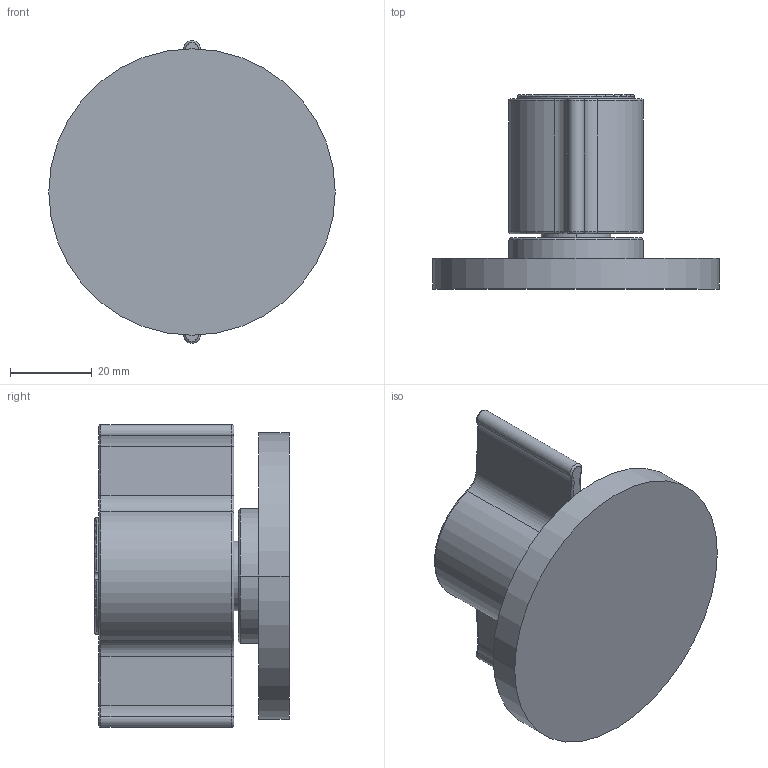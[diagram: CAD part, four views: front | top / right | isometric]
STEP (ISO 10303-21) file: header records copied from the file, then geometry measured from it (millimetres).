
FILE_DESCRIPTION((''),'2;1');
FILE_NAME('DIS_3D_J990B_D491A','2025-10-06T11:02:36',('Luca'),(''),'CREO PARAMETRIC BY PTC INC, 2025010','CREO PARAMETRIC BY PTC INC, 2025010','');
FILE_SCHEMA(('AUTOMOTIVE_DESIGN { 1 0 10303 214 1 1 1 1 }'));
Length unit declared in the file: millimetre
Products named in the file (1): DIS_3D_J990B_D491A
Bounding box: 70 x 47.5 x 74 mm (x, y, z)
Volume: 67421.6 mm3; surface area: 17334.5 mm2
Topology: 1 solids, 1 shells, 65 faces, 164 edges, 105 vertices
Faces by surface type: cylinder 28, torus 25, plane 10, cone 2
Entity records: 2799 total; most frequent: DIRECTION 440, CARTESIAN_POINT 384, ORIENTED_EDGE 328, AXIS2_PLACEMENT_3D 197, EDGE_CURVE 164, CIRCLE 120, VERTEX_POINT 105, EDGE_LOOP 69
